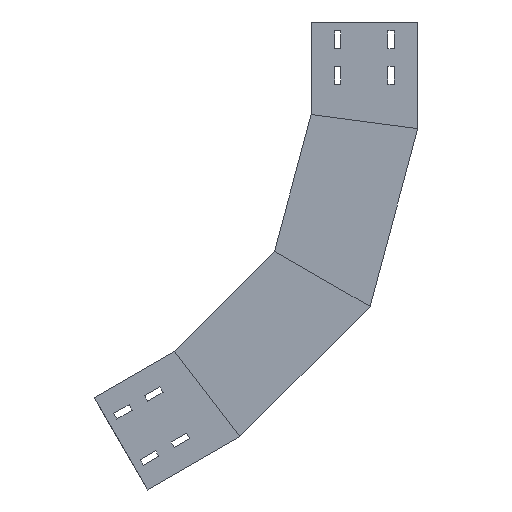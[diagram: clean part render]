
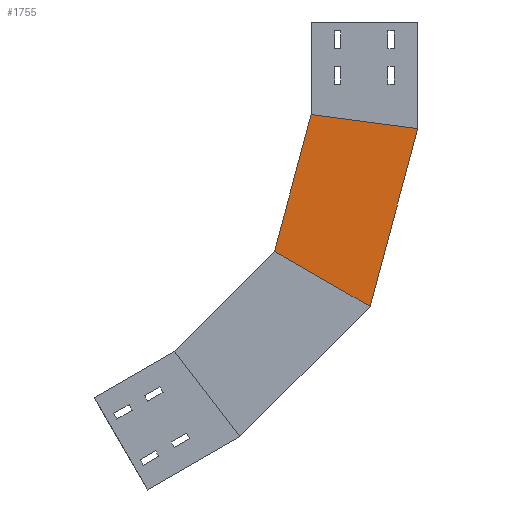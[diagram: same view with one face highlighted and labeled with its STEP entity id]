
A CAD part, left-side view. The second image highlights one B-rep face of the part: STEP entity #1755.
In plain terms, the highlighted planar face has unit normal (-1, 0, 0) as drawn and (1, 0, 0) by its records, which use the part's own axes.
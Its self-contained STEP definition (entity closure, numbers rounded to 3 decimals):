
#295 = VECTOR ( 'NONE', #2106, 1000. ) ;
#359 = EDGE_LOOP ( 'NONE', ( #563, #601, #2189, #2176 ) ) ;
#501 = CARTESIAN_POINT ( 'NONE',  ( 0., 270.755, -556.495 ) ) ;
#542 = DIRECTION ( 'NONE',  ( -1., 0., 0. ) ) ;
#563 = ORIENTED_EDGE ( 'NONE', *, *, #2160, .F. ) ;
#592 = CARTESIAN_POINT ( 'NONE',  ( 0., 125.087, -366.658 ) ) ;
#601 = ORIENTED_EDGE ( 'NONE', *, *, #1146, .T. ) ;
#699 = FACE_OUTER_BOUND ( 'NONE', #359, .T. ) ;
#706 = CARTESIAN_POINT ( 'NONE',  ( 0., 173.1, -294.109 ) ) ;
#708 = DIRECTION ( 'NONE',  ( 0., 0., 1. ) ) ;
#726 = DIRECTION ( 'NONE',  ( 0., -0.866, -0.5 ) ) ;
#735 = CARTESIAN_POINT ( 'NONE',  ( 0., 250.175, -583.315 ) ) ;
#751 = LINE ( 'NONE', #592, #1684 ) ;
#771 = CARTESIAN_POINT ( 'NONE',  ( 0., 201.52, -322.529 ) ) ;
#800 = AXIS2_PLACEMENT_3D ( 'NONE', #1060, #542, #708 ) ;
#808 = VECTOR ( 'NONE', #1188, 1000. ) ;
#840 = EDGE_CURVE ( 'NONE', #2065, #1432, #1868, .T. ) ;
#1020 = DIRECTION ( 'NONE',  ( 0., 0.707, -0.707 ) ) ;
#1052 = CARTESIAN_POINT ( 'NONE',  ( 0., 67.034, -400.175 ) ) ;
#1060 = CARTESIAN_POINT ( 'NONE',  ( 0., 67.034, -400.175 ) ) ;
#1146 = EDGE_CURVE ( 'NONE', #1527, #1388, #751, .T. ) ;
#1188 = DIRECTION ( 'NONE',  ( 0., -0.609, -0.793 ) ) ;
#1224 = PLANE ( 'NONE',  #800 ) ;
#1346 = CARTESIAN_POINT ( 'NONE',  ( 0., 342.277, -463.286 ) ) ;
#1388 = VERTEX_POINT ( 'NONE', #1052 ) ;
#1432 = VERTEX_POINT ( 'NONE', #735 ) ;
#1527 = VERTEX_POINT ( 'NONE', #771 ) ;
#1543 = CARTESIAN_POINT ( 'NONE',  ( 0., 67.034, -400.175 ) ) ;
#1631 = VECTOR ( 'NONE', #1020, 1000. ) ;
#1684 = VECTOR ( 'NONE', #726, 1000. ) ;
#1755 = ADVANCED_FACE ( 'NONE', ( #699 ), #1224, .F. ) ;
#1868 = LINE ( 'NONE', #501, #808 ) ;
#1941 = LINE ( 'NONE', #706, #1631 ) ;
#2059 = LINE ( 'NONE', #1543, #295 ) ;
#2065 = VERTEX_POINT ( 'NONE', #1346 ) ;
#2106 = DIRECTION ( 'NONE',  ( 0., 0.707, -0.707 ) ) ;
#2113 = EDGE_CURVE ( 'NONE', #1388, #1432, #2059, .T. ) ;
#2160 = EDGE_CURVE ( 'NONE', #1527, #2065, #1941, .T. ) ;
#2176 = ORIENTED_EDGE ( 'NONE', *, *, #840, .F. ) ;
#2189 = ORIENTED_EDGE ( 'NONE', *, *, #2113, .T. ) ;
